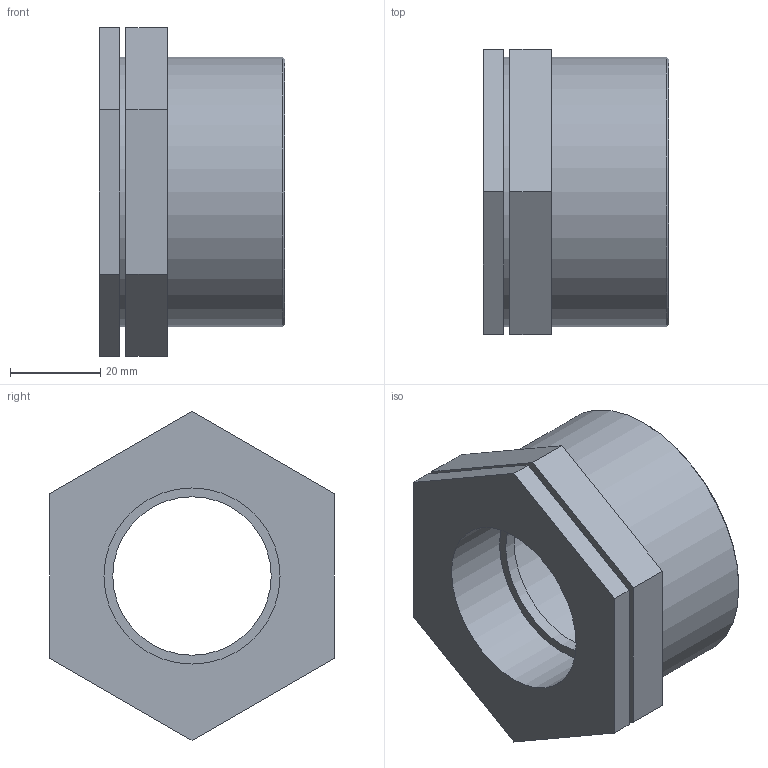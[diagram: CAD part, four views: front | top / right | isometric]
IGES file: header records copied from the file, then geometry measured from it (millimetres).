
Global section: file name: 050207020013_0502070200130A.ipt; native system: Autodesk Inventor 2015; preprocessor: unknown; author: KIM; date: 20170618.093140; units: millimetre
Bounding box: 41 x 63 x 72.75 mm (x, y, z)
Volume: 47666.4 mm3; surface area: 21310.2 mm2
Topology: 1 solids, 1 shells, 28 faces, 66 edges, 46 vertices
Faces by surface type: plane 20, revolution 4, cylinder 3, cone 1
Full cylindrical faces by diameter (mm): 46.742 x1, 59.614 x2
